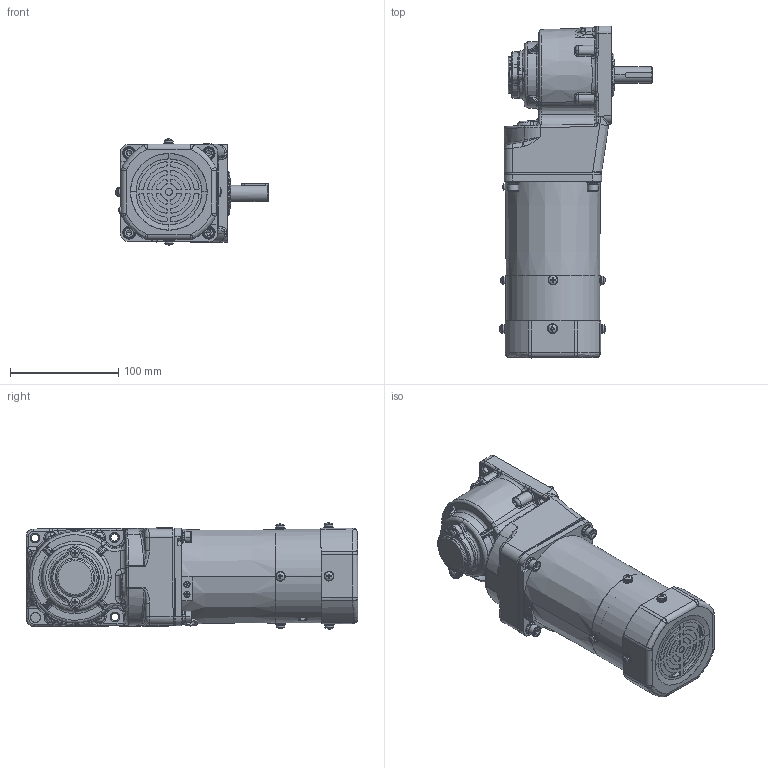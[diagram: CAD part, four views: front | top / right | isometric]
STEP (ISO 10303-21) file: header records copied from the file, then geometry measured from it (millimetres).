
FILE_DESCRIPTION (( 'STEP AP203' ), '1' );
FILE_NAME ('5RK60GU-CMF(5GU3RT-180RT)ÐÂ.STEP', '2022-02-24T02:28:29', ( 'PC' ), ( 'Microsoft' ), 'SwSTEP 2.0', 'SolidWorks 2014', '' );
FILE_SCHEMA (( 'CONFIG_CONTROL_DESIGN' ));
Length unit declared in the file: millimetre
Products named in the file (9): 90壔裔; ZD-5GU50RC-505-003綴傷裔; 90RT妗陑怀堤傷裔; hexagon socket head cap screws gb_GB_FASTENER_SCREWS_HSHCS M5X12-N; cross recessed pan head screws gb_GB_CROSS_SCREWS_TYPE1 M4X6-6  H type-N; 5RK60GU-CMF(5GU3RT-180RT); 5RK60GU-CMF(5GU3RT-180RT)陔; zd-5gu-50rc-504-001m#眊极禱矗 2021-12-07 - 萵掛; 90妗陑怀堤粣
Assembly tree (12 placements, depth 2):
  5RK60GU-CMF(5GU3RT-180RT)陔
    zd-5gu-50rc-504-001m#眊极禱矗 2021-12-07 - 萵掛
    90妗陑怀堤粣
    90壔裔
    ZD-5GU50RC-505-003綴傷裔
    90RT妗陑怀堤傷裔
    hexagon socket head cap screws gb_GB_FASTENER_SCREWS_HSHCS M5X12-N  x4
    cross recessed pan head screws gb_GB_CROSS_SCREWS_TYPE1 M4X6-6  H type-N  x2
    5RK60GU-CMF(5GU3RT-180RT)
Bounding box: 141.25 x 306.96 x 98.12 mm (x, y, z)
Volume: 822093.8 mm3; surface area: 247444.8 mm2
Topology: 48 solids, 58 shells, 2421 faces, 5972 edges, 3630 vertices
Faces by surface type: plane 771, cylinder 649, bspline 492, cone 410, torus 93, sphere 6
Entity records: 96596 total; most frequent: CARTESIAN_POINT 44523, ORIENTED_EDGE 11256, DIRECTION 9904, EDGE_CURVE 5629, AXIS2_PLACEMENT_3D 3926, VERTEX_POINT 3490, EDGE_LOOP 2496, FACE_OUTER_BOUND 2322
